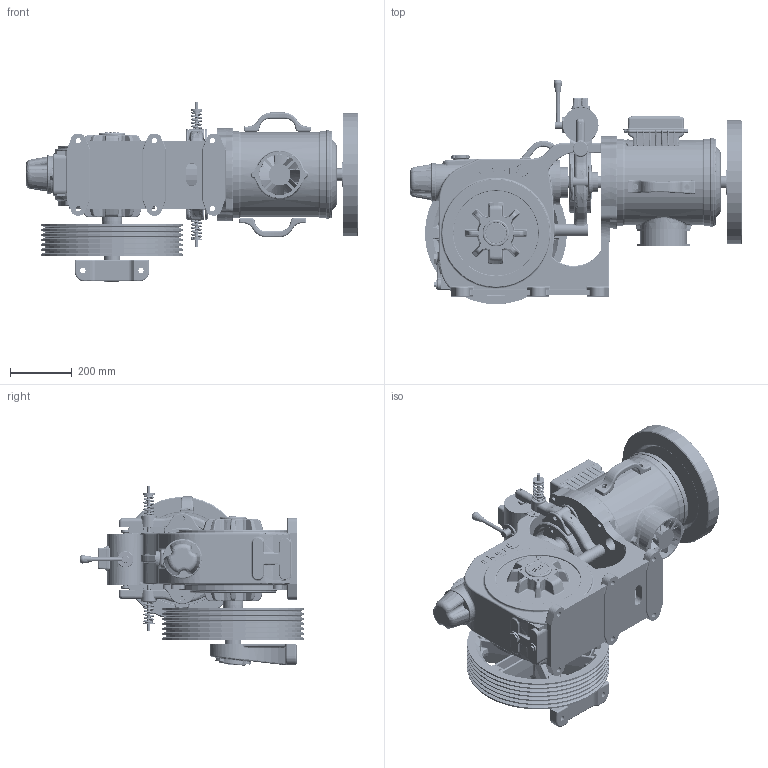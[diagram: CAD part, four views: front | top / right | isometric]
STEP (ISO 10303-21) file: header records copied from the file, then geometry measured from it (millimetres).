
FILE_DESCRIPTION (( 'STEP AP214' ), '1' );
FILE_NAME ('STPC103080.STEP', '2026-01-22T06:39:31', ( '' ), ( '' ), 'SwSTEP 2.0', 'SolidWorks 2023', '' );
FILE_SCHEMA (( 'AUTOMOTIVE_DESIGN' ));
Length unit declared in the file: millimetre
Products named in the file (1): STPC103080
Bounding box: 1074.1 x 726.71 x 581.08 mm (x, y, z)
Volume: 76315774 mm3; surface area: 4615264.2 mm2
Topology: 46 solids, 65 shells, 6654 faces, 15750 edges, 9312 vertices
Faces by surface type: cylinder 2048, bspline 1720, plane 1348, torus 767, cone 392, sphere 379
Entity records: 272744 total; most frequent: CARTESIAN_POINT 131474, ORIENTED_EDGE 31254, DIRECTION 27416, EDGE_CURVE 15627, AXIS2_PLACEMENT_3D 11509, VERTEX_POINT 9278, EDGE_LOOP 7123, ADVANCED_FACE 6654
